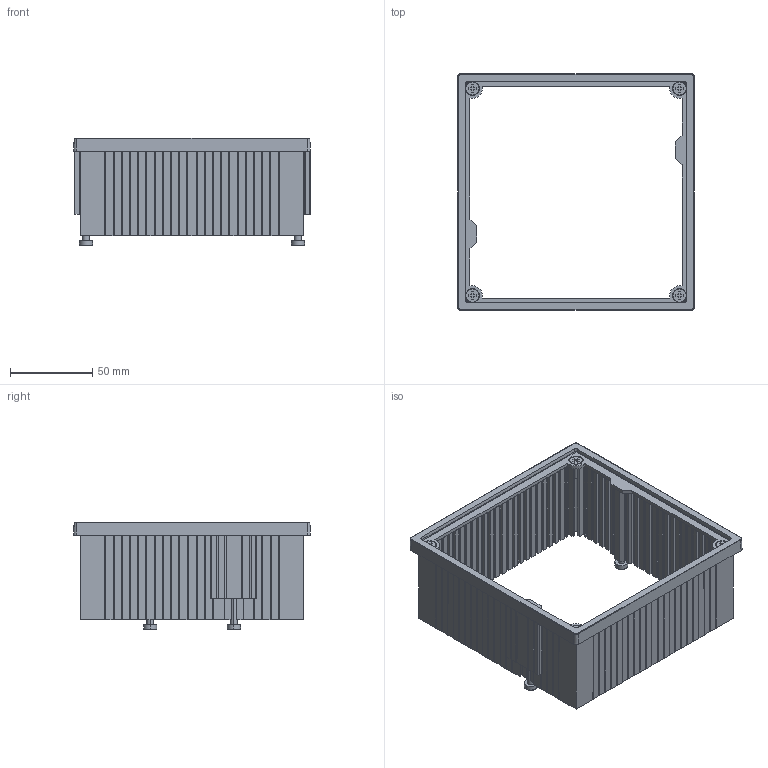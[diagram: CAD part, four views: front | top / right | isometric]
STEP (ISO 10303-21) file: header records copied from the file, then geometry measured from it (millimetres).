
FILE_DESCRIPTION(('Creo Elements/Direct Modeling STEP Export'),'2;1');
FILE_NAME('044236000.stp','2018-11-23T10:36:00',(''),(''),'Creo Elements/Direct Modeling STEP processor for AP214 (Solid Model)','Creo Elements/Direct Modeling 18.1I 13-Aug-2016 (C) Parametric Technology GmbH','');
FILE_SCHEMA(('AUTOMOTIVE_DESIGN { 1 0 10303 214 1 1 1 1 }'));
Length unit declared in the file: millimetre
Products named in the file (7): 0630730_SchraubeM4x16.01; 0445376_Frontrahmen_144x144; 0630731_SchraubeM4x12.1; 24004502_Rahmen_fuer_Aluminiumgeh; 044236001_Profil_fuer_Alminiumgeh_144x144; 044200200_Befestigungsprofil; 044236000_Aluminiumgehaeuse144x144x60
Assembly tree (11 placements, depth 2):
  044236000_Aluminiumgehaeuse144x144x60
    044200200_Befestigungsprofil  x2
    0630731_SchraubeM4x12.1  x4
    0630730_SchraubeM4x16.01  x2
    044236001_Profil_fuer_Alminiumgeh_144x144
    24004502_Rahmen_fuer_Aluminiumgeh
    0445376_Frontrahmen_144x144
Bounding box: 144 x 144.05 x 65.7 mm (x, y, z)
Volume: 109728.9 mm3; surface area: 113277.5 mm2
Topology: 11 solids, 11 shells, 949 faces, 2688 edges, 1780 vertices
Faces by surface type: plane 747, cylinder 166, cone 28, torus 8
Entity records: 27252 total; most frequent: CARTESIAN_POINT 4825, ORIENTED_EDGE 4816, DIRECTION 4384, EDGE_CURVE 2408, VECTOR 2070, LINE 2070, VERTEX_POINT 1598, AXIS2_PLACEMENT_3D 1157
